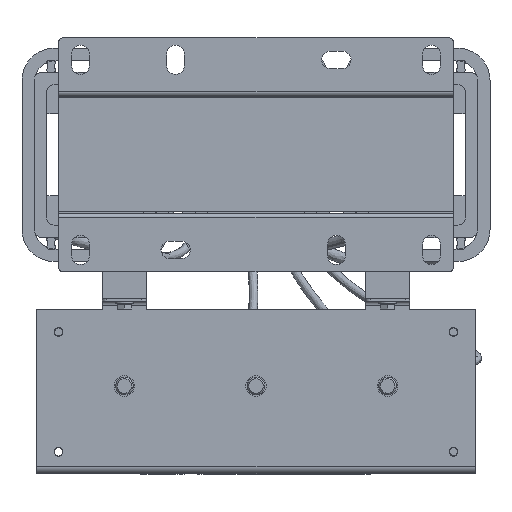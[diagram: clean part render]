
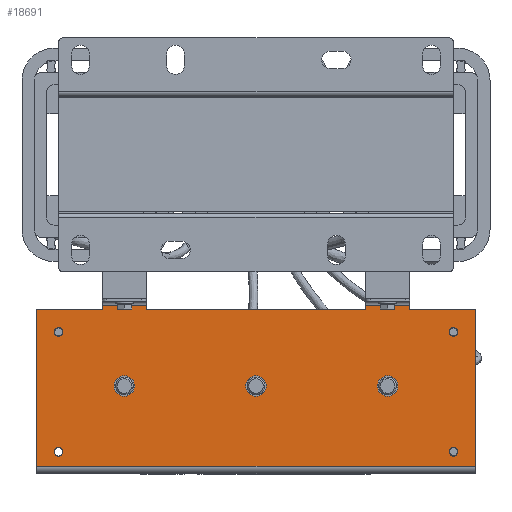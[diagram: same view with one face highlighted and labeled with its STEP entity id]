
A CAD part, front view. The second image highlights one B-rep face of the part: STEP entity #18691.
In plain terms, the highlighted planar face has unit normal (0, -1, 0).
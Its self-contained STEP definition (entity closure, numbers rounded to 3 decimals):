
#18691=ADVANCED_FACE('',(#31449,#31451,#31453,#31455,#31457,#31459,#31461,#31463),
#31465,.F.);
#31449=FACE_BOUND('',#31450,.T.);
#31450=EDGE_LOOP('',(#45332,#45333,#45334,#45335,#45336,#45337,#45338,#45339,#45340,
#45341,#45342,#45343));
#31451=FACE_BOUND('',#31452,.T.);
#31452=EDGE_LOOP('',(#45344));
#31453=FACE_BOUND('',#31454,.T.);
#31454=EDGE_LOOP('',(#45345));
#31455=FACE_BOUND('',#31456,.T.);
#31456=EDGE_LOOP('',(#45346));
#31457=FACE_BOUND('',#31458,.T.);
#31458=EDGE_LOOP('',(#45347));
#31459=FACE_BOUND('',#31460,.T.);
#31460=EDGE_LOOP('',(#45348));
#31461=FACE_BOUND('',#31462,.T.);
#31462=EDGE_LOOP('',(#45349));
#31463=FACE_BOUND('',#31464,.T.);
#31464=EDGE_LOOP('',(#45350));
#31465=PLANE('',#31466);
#31466=AXIS2_PLACEMENT_3D('',#31467,#31468,#31469);
#31467=CARTESIAN_POINT('',(-116.,-40.,150.));
#31468=DIRECTION('',(0.,1.,0.));
#31469=DIRECTION('',(0.,0.,1.));
#45332=ORIENTED_EDGE('',*,*,#50037,.T.);
#45333=ORIENTED_EDGE('',*,*,#50038,.T.);
#45334=ORIENTED_EDGE('',*,*,#50039,.T.);
#45335=ORIENTED_EDGE('',*,*,#50040,.F.);
#45336=ORIENTED_EDGE('',*,*,#50041,.T.);
#45337=ORIENTED_EDGE('',*,*,#50042,.T.);
#45338=ORIENTED_EDGE('',*,*,#50043,.T.);
#45339=ORIENTED_EDGE('',*,*,#50044,.F.);
#45340=ORIENTED_EDGE('',*,*,#49970,.T.);
#45341=ORIENTED_EDGE('',*,*,#50045,.T.);
#45342=ORIENTED_EDGE('',*,*,#49956,.F.);
#45343=ORIENTED_EDGE('',*,*,#50046,.F.);
#45344=ORIENTED_EDGE('',*,*,#49895,.T.);
#45345=ORIENTED_EDGE('',*,*,#49897,.T.);
#45346=ORIENTED_EDGE('',*,*,#49899,.T.);
#45347=ORIENTED_EDGE('',*,*,#49901,.T.);
#45348=ORIENTED_EDGE('',*,*,#49903,.T.);
#45349=ORIENTED_EDGE('',*,*,#49905,.T.);
#45350=ORIENTED_EDGE('',*,*,#49907,.T.);
#49895=EDGE_CURVE('',#56022,#56022,#56023,.T.);
#49897=EDGE_CURVE('',#56026,#56026,#56027,.T.);
#49899=EDGE_CURVE('',#56030,#56030,#56031,.T.);
#49901=EDGE_CURVE('',#56034,#56034,#56035,.T.);
#49903=EDGE_CURVE('',#56038,#56038,#56039,.T.);
#49905=EDGE_CURVE('',#56042,#56042,#56043,.T.);
#49907=EDGE_CURVE('',#56046,#56046,#56047,.T.);
#49956=EDGE_CURVE('',#56138,#56139,#56140,.T.);
#49970=EDGE_CURVE('',#56167,#56165,#56168,.T.);
#50037=EDGE_CURVE('',#56285,#56286,#56287,.T.);
#50038=EDGE_CURVE('',#56286,#56288,#56289,.T.);
#50039=EDGE_CURVE('',#56288,#56290,#56291,.T.);
#50040=EDGE_CURVE('',#56292,#56290,#56293,.T.);
#50041=EDGE_CURVE('',#56292,#56294,#56295,.T.);
#50042=EDGE_CURVE('',#56294,#56296,#56297,.T.);
#50043=EDGE_CURVE('',#56296,#56298,#56299,.T.);
#50044=EDGE_CURVE('',#56167,#56298,#56300,.T.);
#50045=EDGE_CURVE('',#56165,#56139,#56301,.T.);
#50046=EDGE_CURVE('',#56285,#56138,#56302,.T.);
#56022=VERTEX_POINT('',#71845);
#56023=CIRCLE('',#71846,3.);
#56026=VERTEX_POINT('',#71855);
#56027=CIRCLE('',#71856,3.);
#56030=VERTEX_POINT('',#71865);
#56031=CIRCLE('',#71866,3.);
#56034=VERTEX_POINT('',#71875);
#56035=CIRCLE('',#71876,3.);
#56038=VERTEX_POINT('',#71885);
#56039=CIRCLE('',#71886,7.);
#56042=VERTEX_POINT('',#71895);
#56043=CIRCLE('',#71896,7.);
#56046=VERTEX_POINT('',#71905);
#56047=CIRCLE('',#71906,7.);
#56138=VERTEX_POINT('',#72116);
#56139=VERTEX_POINT('',#72117);
#56140=LINE('',#72118,#72119);
#56165=VERTEX_POINT('',#72173);
#56167=VERTEX_POINT('',#72178);
#56168=LINE('',#72179,#72180);
#56285=VERTEX_POINT('',#72444);
#56286=VERTEX_POINT('',#72445);
#56287=LINE('',#72446,#72447);
#56288=VERTEX_POINT('',#72449);
#56289=LINE('',#72450,#72451);
#56290=VERTEX_POINT('',#72453);
#56291=LINE('',#72454,#72455);
#56292=VERTEX_POINT('',#72457);
#56293=LINE('',#72458,#72459);
#56294=VERTEX_POINT('',#72461);
#56295=LINE('',#72462,#72463);
#56296=VERTEX_POINT('',#72465);
#56297=LINE('',#72466,#72467);
#56298=VERTEX_POINT('',#72469);
#56299=LINE('',#72470,#72471);
#56300=LINE('',#72473,#72474);
#56301=LINE('',#72476,#72477);
#56302=LINE('',#72479,#72480);
#71845=CARTESIAN_POINT('',(-16.,-40.,-135.));
#71846=AXIS2_PLACEMENT_3D('',#71847,#71848,#71849);
#71847=CARTESIAN_POINT('',(-13.,-40.,-135.));
#71848=DIRECTION('',(0.,1.,0.));
#71849=DIRECTION('',(1.,0.,0.));
#71855=CARTESIAN_POINT('',(-98.,-40.,135.));
#71856=AXIS2_PLACEMENT_3D('',#71857,#71858,#71859);
#71857=CARTESIAN_POINT('',(-95.,-40.,135.));
#71858=DIRECTION('',(0.,1.,0.));
#71859=DIRECTION('',(1.,0.,0.));
#71865=CARTESIAN_POINT('',(-16.,-40.,135.));
#71866=AXIS2_PLACEMENT_3D('',#71867,#71868,#71869);
#71867=CARTESIAN_POINT('',(-13.,-40.,135.));
#71868=DIRECTION('',(0.,1.,0.));
#71869=DIRECTION('',(1.,0.,0.));
#71875=CARTESIAN_POINT('',(-98.,-40.,-135.));
#71876=AXIS2_PLACEMENT_3D('',#71877,#71878,#71879);
#71877=CARTESIAN_POINT('',(-95.,-40.,-135.));
#71878=DIRECTION('',(0.,1.,0.));
#71879=DIRECTION('',(1.,0.,0.));
#71885=CARTESIAN_POINT('',(-58.,-40.,97.));
#71886=AXIS2_PLACEMENT_3D('',#71887,#71888,#71889);
#71887=CARTESIAN_POINT('',(-58.,-40.,90.));
#71888=DIRECTION('',(0.,1.,0.));
#71889=DIRECTION('',(0.,0.,-1.));
#71895=CARTESIAN_POINT('',(-58.,-40.,-83.));
#71896=AXIS2_PLACEMENT_3D('',#71897,#71898,#71899);
#71897=CARTESIAN_POINT('',(-58.,-40.,-90.));
#71898=DIRECTION('',(0.,1.,0.));
#71899=DIRECTION('',(0.,0.,-1.));
#71905=CARTESIAN_POINT('',(-58.,-40.,7.));
#71906=AXIS2_PLACEMENT_3D('',#71907,#71908,#71909);
#71907=CARTESIAN_POINT('',(-58.,-40.,0.));
#71908=DIRECTION('',(0.,1.,0.));
#71909=DIRECTION('',(0.,0.,-1.));
#72116=CARTESIAN_POINT('',(-110.,-40.,150.));
#72117=CARTESIAN_POINT('',(-3.,-40.,150.));
#72118=CARTESIAN_POINT('',(-110.,-40.,150.));
#72119=VECTOR('',#72120,1.);
#72120=DIRECTION('',(1.,0.,0.));
#72173=CARTESIAN_POINT('',(-3.,-40.,-150.));
#72178=CARTESIAN_POINT('',(-110.,-40.,-150.));
#72179=CARTESIAN_POINT('',(-110.,-40.,-150.));
#72180=VECTOR('',#72181,1.);
#72181=DIRECTION('',(1.,0.,0.));
#72444=CARTESIAN_POINT('',(-110.,-40.,105.));
#72445=CARTESIAN_POINT('',(-113.,-40.,105.));
#72446=CARTESIAN_POINT('',(-110.,-40.,105.));
#72447=VECTOR('',#72448,1.);
#72448=DIRECTION('',(-1.,0.,0.));
#72449=CARTESIAN_POINT('',(-113.,-40.,75.));
#72450=CARTESIAN_POINT('',(-113.,-40.,105.));
#72451=VECTOR('',#72452,1.);
#72452=DIRECTION('',(0.,0.,-1.));
#72453=CARTESIAN_POINT('',(-110.,-40.,75.));
#72454=CARTESIAN_POINT('',(-113.,-40.,75.));
#72455=VECTOR('',#72456,1.);
#72456=DIRECTION('',(1.,0.,0.));
#72457=CARTESIAN_POINT('',(-110.,-40.,-75.));
#72458=CARTESIAN_POINT('',(-110.,-40.,-75.));
#72459=VECTOR('',#72460,1.);
#72460=DIRECTION('',(0.,0.,1.));
#72461=CARTESIAN_POINT('',(-113.,-40.,-75.));
#72462=CARTESIAN_POINT('',(-110.,-40.,-75.));
#72463=VECTOR('',#72464,1.);
#72464=DIRECTION('',(-1.,0.,0.));
#72465=CARTESIAN_POINT('',(-113.,-40.,-105.));
#72466=CARTESIAN_POINT('',(-113.,-40.,-75.));
#72467=VECTOR('',#72468,1.);
#72468=DIRECTION('',(0.,0.,-1.));
#72469=CARTESIAN_POINT('',(-110.,-40.,-105.));
#72470=CARTESIAN_POINT('',(-113.,-40.,-105.));
#72471=VECTOR('',#72472,1.);
#72472=DIRECTION('',(1.,0.,0.));
#72473=CARTESIAN_POINT('',(-110.,-40.,-150.));
#72474=VECTOR('',#72475,1.);
#72475=DIRECTION('',(0.,0.,1.));
#72476=CARTESIAN_POINT('',(-3.,-40.,-150.));
#72477=VECTOR('',#72478,1.);
#72478=DIRECTION('',(0.,0.,1.));
#72479=CARTESIAN_POINT('',(-110.,-40.,105.));
#72480=VECTOR('',#72481,1.);
#72481=DIRECTION('',(0.,0.,1.));
